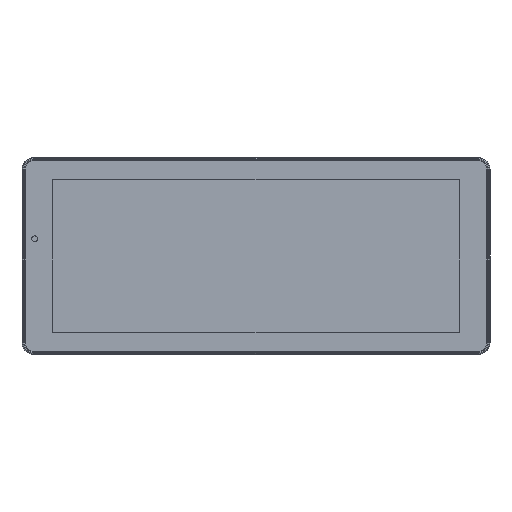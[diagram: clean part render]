
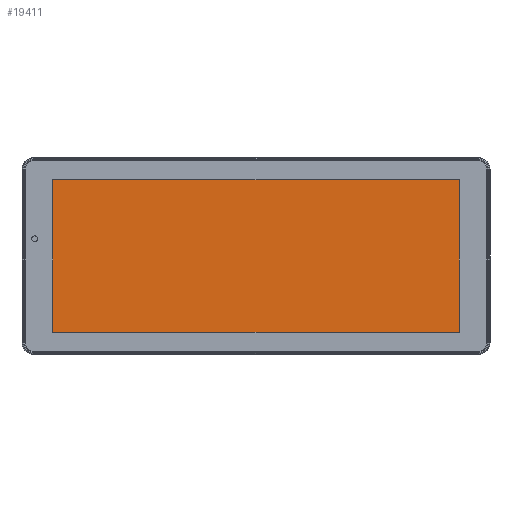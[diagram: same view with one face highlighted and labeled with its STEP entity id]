
A CAD part, top view. The second image highlights one B-rep face of the part: STEP entity #19411.
In plain terms, the highlighted planar face has unit normal (0, 0, 1).
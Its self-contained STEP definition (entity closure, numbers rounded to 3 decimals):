
#708 = ORIENTED_EDGE ( 'NONE', *, *, #17332, .T. ) ;
#1644 = ORIENTED_EDGE ( 'NONE', *, *, #50699, .T. ) ;
#8943 = FACE_OUTER_BOUND ( 'NONE', #200436, .T. ) ;
#17332 = EDGE_CURVE ( 'NONE', #108274, #37308, #168689, .T. ) ;
#19411 = ADVANCED_FACE ( 'NONE', ( #8943 ), #122065, .F. ) ;
#20528 = CARTESIAN_POINT ( 'NONE',  ( 178.24, -67.09, 1.897 ) ) ;
#23821 = DIRECTION ( 'NONE',  ( 1., 0., 0. ) ) ;
#24210 = EDGE_CURVE ( 'NONE', #133617, #106742, #55562, .T. ) ;
#37308 = VERTEX_POINT ( 'NONE', #107249 ) ;
#42821 = VECTOR ( 'NONE', #135978, 1000. ) ;
#50699 = EDGE_CURVE ( 'NONE', #106742, #108274, #185456, .T. ) ;
#55562 = LINE ( 'NONE', #72441, #171856 ) ;
#57502 = CARTESIAN_POINT ( 'NONE',  ( 178.24, 67.09, 1.897 ) ) ;
#66645 = VECTOR ( 'NONE', #154100, 1000. ) ;
#72441 = CARTESIAN_POINT ( 'NONE',  ( 178.24, -67.09, 1.897 ) ) ;
#73423 = EDGE_CURVE ( 'NONE', #37308, #133617, #155136, .T. ) ;
#80158 = VECTOR ( 'NONE', #88126, 1000. ) ;
#88126 = DIRECTION ( 'NONE',  ( 0., 1., 0. ) ) ;
#103401 = CARTESIAN_POINT ( 'NONE',  ( -178.24, -67.09, 1.897 ) ) ;
#106742 = VERTEX_POINT ( 'NONE', #20528 ) ;
#107249 = CARTESIAN_POINT ( 'NONE',  ( -178.24, 67.09, 1.897 ) ) ;
#108274 = VERTEX_POINT ( 'NONE', #170155 ) ;
#122065 = PLANE ( 'NONE',  #181422 ) ;
#133617 = VERTEX_POINT ( 'NONE', #156433 ) ;
#135978 = DIRECTION ( 'NONE',  ( -1., 0., 0. ) ) ;
#137029 = CARTESIAN_POINT ( 'NONE',  ( -178.24, 67.09, 1.897 ) ) ;
#154100 = DIRECTION ( 'NONE',  ( 0., -1., 0. ) ) ;
#155136 = LINE ( 'NONE', #103401, #66645 ) ;
#156433 = CARTESIAN_POINT ( 'NONE',  ( -178.24, -67.09, 1.897 ) ) ;
#157977 = ORIENTED_EDGE ( 'NONE', *, *, #24210, .T. ) ;
#168689 = LINE ( 'NONE', #137029, #42821 ) ;
#170155 = CARTESIAN_POINT ( 'NONE',  ( 178.24, 67.09, 1.897 ) ) ;
#171701 = DIRECTION ( 'NONE',  ( 0., -1., 0. ) ) ;
#171856 = VECTOR ( 'NONE', #23821, 1000. ) ;
#174841 = CARTESIAN_POINT ( 'NONE',  ( 0., 0., 1.897 ) ) ;
#181422 = AXIS2_PLACEMENT_3D ( 'NONE', #174841, #188632, #171701 ) ;
#185456 = LINE ( 'NONE', #57502, #80158 ) ;
#188632 = DIRECTION ( 'NONE',  ( 0., 0., -1. ) ) ;
#189442 = ORIENTED_EDGE ( 'NONE', *, *, #73423, .T. ) ;
#200436 = EDGE_LOOP ( 'NONE', ( #189442, #157977, #1644, #708 ) ) ;
